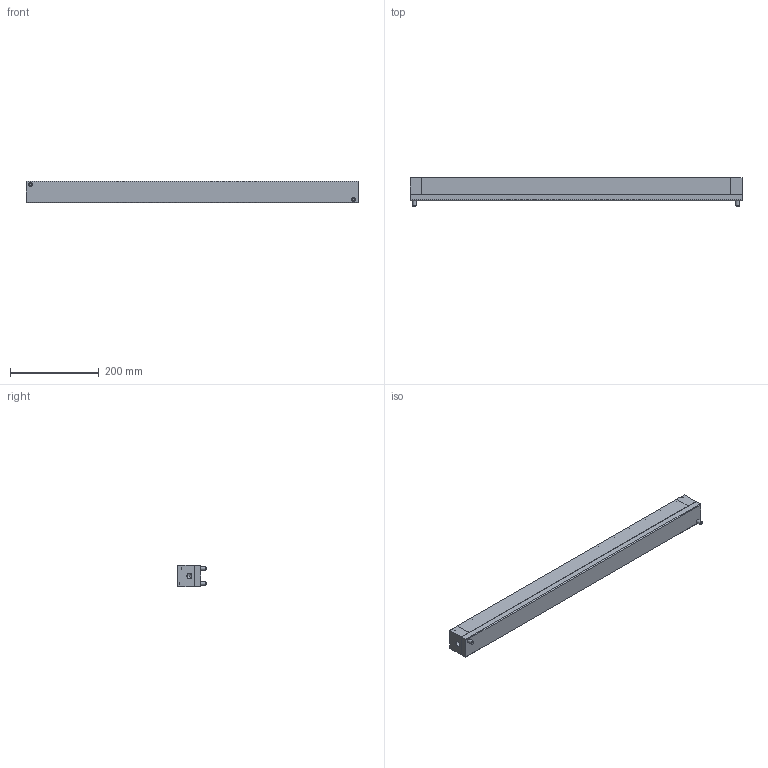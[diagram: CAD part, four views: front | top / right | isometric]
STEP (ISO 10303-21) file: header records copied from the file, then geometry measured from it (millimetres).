
FILE_DESCRIPTION( ( 'STEP AP214' ), '1' );
FILE_NAME( 'Z:/01-DesignData/標準品図面/★Web／カタログ用データ(型式別 3点Set)/072-ISR-C50D 系/ISR-C50D-750-A_0_.stp', '2022-05-10T00:44:13', ( 'License CC BY-ND 4.0' ), ( 'CADENAS' ), ' ', 'PARTsolutions', ' ' );
FILE_SCHEMA( ( 'AUTOMOTIVE_DESIGN { 1 0 10303 214 1 1 1 1 }' ) );
Length unit declared in the file: millimetre
Products named in the file (5): ISR-C50D-750-A(0); _ISR-C50D-750-A-Body; _ISR-C50D-750-A-Box; _ISR-C50D-750-A(0)-Ball; _ISR-C50D-750-A-screw
Assembly tree (18 placements, depth 2):
  ISR-C50D-750-A(0)
    _ISR-C50D-750-A-Body
    _ISR-C50D-750-A-Box
    _ISR-C50D-750-A(0)-Ball  x14
    _ISR-C50D-750-A-screw  x2
Bounding box: 750 x 64 x 49.5 mm (x, y, z)
Volume: 1829028.3 mm3; surface area: 415653.9 mm2
Topology: 18 solids, 18 shells, 828 faces, 1766 edges, 1080 vertices
Faces by surface type: plane 566, cylinder 138, torus 60, cone 50, sphere 14
Full cylindrical faces by diameter (mm): 8 x2, 8.5 x28, 9 x2, 9.5 x28, 13 x4, 14.5 x4, 25.4 x14, 38.5 x14, 39 x14, 42 x28
Entity records: 22628 total; most frequent: DIRECTION 3068, CARTESIAN_POINT 2832, ORIENTED_EDGE 2514, EDGE_CURVE 1257, AXIS2_PLACEMENT_3D 1114, EDGE_LOOP 940, VERTEX_POINT 878, LINE 840
